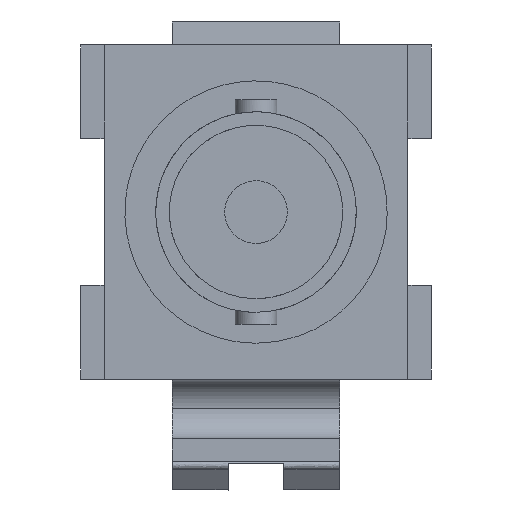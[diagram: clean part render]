
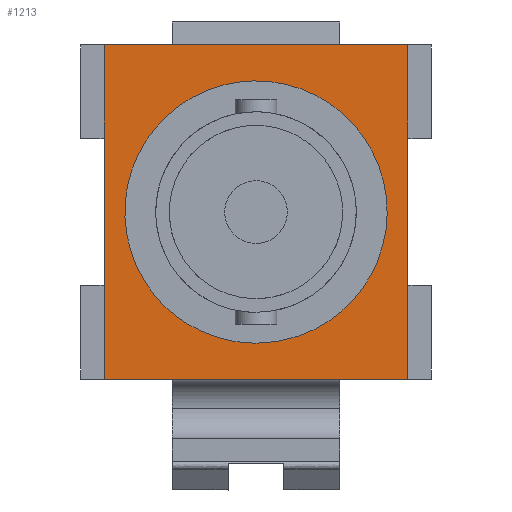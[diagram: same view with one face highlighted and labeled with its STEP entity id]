
A CAD part, left-side view. The second image highlights one B-rep face of the part: STEP entity #1213.
In plain terms, the highlighted free-form (B-spline) face has degree [1, 1] with [2, 2] control points.
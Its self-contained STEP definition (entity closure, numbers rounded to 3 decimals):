
#633=CARTESIAN_POINT('',(-18.35,-7.275,0.));
#634=VERTEX_POINT('',#633);
#644=CARTESIAN_POINT('',(-18.35,7.275,0.));
#645=VERTEX_POINT('',#644);
#646=CARTESIAN_POINT('',(-18.35,7.275,0.));
#647=CARTESIAN_POINT('',(-18.35,4.365,0.));
#648=CARTESIAN_POINT('',(-18.35,1.455,0.));
#649=CARTESIAN_POINT('',(-18.35,-1.455,0.));
#650=CARTESIAN_POINT('',(-18.35,-4.365,0.));
#651=CARTESIAN_POINT('',(-18.35,-7.275,0.));
#652=B_SPLINE_CURVE_WITH_KNOTS('',5,(#646,#647,#648,#649,#650,#651),.UNSPECIFIED.,.F.,.U.,(6,6),(0.,14.55),.UNSPECIFIED.);
#653=EDGE_CURVE('',#645,#634,#652,.T.);
#762=CARTESIAN_POINT('',(-18.35,7.275,16.));
#763=VERTEX_POINT('',#762);
#773=CARTESIAN_POINT('',(-18.35,-7.275,16.));
#774=VERTEX_POINT('',#773);
#775=CARTESIAN_POINT('',(-18.35,7.275,16.));
#776=CARTESIAN_POINT('',(-18.35,4.365,16.));
#777=CARTESIAN_POINT('',(-18.35,1.455,16.));
#778=CARTESIAN_POINT('',(-18.35,-1.455,16.));
#779=CARTESIAN_POINT('',(-18.35,-4.365,16.));
#780=CARTESIAN_POINT('',(-18.35,-7.275,16.));
#781=B_SPLINE_CURVE_WITH_KNOTS('',5,(#775,#776,#777,#778,#779,#780),.UNSPECIFIED.,.F.,.U.,(6,6),(0.,14.55),.UNSPECIFIED.);
#782=EDGE_CURVE('',#763,#774,#781,.T.);
#1128=CARTESIAN_POINT('',(-18.35,7.275,16.));
#1129=CARTESIAN_POINT('',(-18.35,-7.275,16.));
#1130=CARTESIAN_POINT('',(-18.35,7.275,0.));
#1131=CARTESIAN_POINT('',(-18.35,-7.275,0.));
#1132=B_SPLINE_SURFACE_WITH_KNOTS('',1,1,((#1128,#1129),(#1130,#1131)),.PLANE_SURF.,.F.,.F.,.U.,(2,2),(2,2),(0.,1.1),(0.,1.),.UNSPECIFIED.);
#1133=CARTESIAN_POINT('',(-18.35,-7.275,0.));
#1134=CARTESIAN_POINT('',(-18.35,-7.275,3.2));
#1135=CARTESIAN_POINT('',(-18.35,-7.275,6.4));
#1136=CARTESIAN_POINT('',(-18.35,-7.275,9.6));
#1137=CARTESIAN_POINT('',(-18.35,-7.275,12.8));
#1138=CARTESIAN_POINT('',(-18.35,-7.275,16.));
#1139=B_SPLINE_CURVE_WITH_KNOTS('',5,(#1133,#1134,#1135,#1136,#1137,#1138),.UNSPECIFIED.,.F.,.U.,(6,6),(0.,16.),.UNSPECIFIED.);
#1140=EDGE_CURVE('',#634,#774,#1139,.T.);
#1141=ORIENTED_EDGE('',*,*,#1140,.T.);
#1142=ORIENTED_EDGE('',*,*,#782,.F.);
#1143=CARTESIAN_POINT('',(-18.35,7.275,16.));
#1144=CARTESIAN_POINT('',(-18.35,7.275,12.8));
#1145=CARTESIAN_POINT('',(-18.35,7.275,9.6));
#1146=CARTESIAN_POINT('',(-18.35,7.275,6.4));
#1147=CARTESIAN_POINT('',(-18.35,7.275,3.2));
#1148=CARTESIAN_POINT('',(-18.35,7.275,0.));
#1149=B_SPLINE_CURVE_WITH_KNOTS('',5,(#1143,#1144,#1145,#1146,#1147,#1148),.UNSPECIFIED.,.F.,.U.,(6,6),(0.,16.),.UNSPECIFIED.);
#1150=EDGE_CURVE('',#763,#645,#1149,.T.);
#1151=ORIENTED_EDGE('',*,*,#1150,.T.);
#1152=ORIENTED_EDGE('',*,*,#653,.T.);
#1153=EDGE_LOOP('',(#1141,#1142,#1151,#1152));
#1154=FACE_OUTER_BOUND('',#1153,.T.);
#1155=CARTESIAN_POINT('',(-18.35,0.,1.72));
#1156=VERTEX_POINT('',#1155);
#1157=CARTESIAN_POINT('',(-18.35,0.,1.72));
#1158=CARTESIAN_POINT('',(-18.35,-0.493,1.72));
#1159=CARTESIAN_POINT('',(-18.35,-0.986,1.768));
#1160=CARTESIAN_POINT('',(-18.35,-1.473,1.865));
#1161=CARTESIAN_POINT('',(-18.35,-2.422,2.153));
#1162=CARTESIAN_POINT('',(-18.35,-3.296,2.62));
#1163=CARTESIAN_POINT('',(-18.35,-3.709,2.896));
#1164=CARTESIAN_POINT('',(-18.35,-4.475,3.525));
#1165=CARTESIAN_POINT('',(-18.35,-5.104,4.291));
#1166=CARTESIAN_POINT('',(-18.35,-5.38,4.704));
#1167=CARTESIAN_POINT('',(-18.35,-5.847,5.578));
#1168=CARTESIAN_POINT('',(-18.35,-6.135,6.527));
#1169=CARTESIAN_POINT('',(-18.35,-6.232,7.014));
#1170=CARTESIAN_POINT('',(-18.35,-6.328,8.));
#1171=CARTESIAN_POINT('',(-18.35,-6.232,8.986));
#1172=CARTESIAN_POINT('',(-18.35,-6.135,9.473));
#1173=CARTESIAN_POINT('',(-18.35,-5.847,10.422));
#1174=CARTESIAN_POINT('',(-18.35,-5.38,11.296));
#1175=CARTESIAN_POINT('',(-18.35,-5.104,11.709));
#1176=CARTESIAN_POINT('',(-18.35,-4.475,12.475));
#1177=CARTESIAN_POINT('',(-18.35,-3.709,13.104));
#1178=CARTESIAN_POINT('',(-18.35,-3.296,13.38));
#1179=CARTESIAN_POINT('',(-18.35,-2.422,13.847));
#1180=CARTESIAN_POINT('',(-18.35,-1.473,14.135));
#1181=CARTESIAN_POINT('',(-18.35,-0.986,14.232));
#1182=CARTESIAN_POINT('',(-18.35,0.,14.328));
#1183=CARTESIAN_POINT('',(-18.35,0.986,14.232));
#1184=CARTESIAN_POINT('',(-18.35,1.473,14.135));
#1185=CARTESIAN_POINT('',(-18.35,2.422,13.847));
#1186=CARTESIAN_POINT('',(-18.35,3.296,13.38));
#1187=CARTESIAN_POINT('',(-18.35,3.709,13.104));
#1188=CARTESIAN_POINT('',(-18.35,4.475,12.475));
#1189=CARTESIAN_POINT('',(-18.35,5.104,11.709));
#1190=CARTESIAN_POINT('',(-18.35,5.38,11.296));
#1191=CARTESIAN_POINT('',(-18.35,5.847,10.422));
#1192=CARTESIAN_POINT('',(-18.35,6.135,9.473));
#1193=CARTESIAN_POINT('',(-18.35,6.232,8.986));
#1194=CARTESIAN_POINT('',(-18.35,6.328,8.));
#1195=CARTESIAN_POINT('',(-18.35,6.232,7.014));
#1196=CARTESIAN_POINT('',(-18.35,6.135,6.527));
#1197=CARTESIAN_POINT('',(-18.35,5.847,5.578));
#1198=CARTESIAN_POINT('',(-18.35,5.38,4.704));
#1199=CARTESIAN_POINT('',(-18.35,5.104,4.291));
#1200=CARTESIAN_POINT('',(-18.35,4.475,3.525));
#1201=CARTESIAN_POINT('',(-18.35,3.709,2.896));
#1202=CARTESIAN_POINT('',(-18.35,3.296,2.62));
#1203=CARTESIAN_POINT('',(-18.35,2.422,2.153));
#1204=CARTESIAN_POINT('',(-18.35,1.473,1.865));
#1205=CARTESIAN_POINT('',(-18.35,0.986,1.768));
#1206=CARTESIAN_POINT('',(-18.35,0.493,1.72));
#1207=CARTESIAN_POINT('',(-18.35,0.,1.72));
#1208=B_SPLINE_CURVE_WITH_KNOTS('',5,(#1157,#1158,#1159,#1160,#1161,#1162,#1163,#1164,#1165,#1166,#1167,#1168,#1169,#1170,#1171,#1172,#1173,#1174,#1175,#1176,#1177,#1178,#1179,#1180,#1181,#1182,#1183,#1184,#1185,#1186,#1187,#1188,#1189,#1190,#1191,#1192,#1193,#1194,#1195,#1196,#1197,#1198,#1199,#1200,#1201,#1202,#1203,#1204,#1205,#1206,#1207),.UNSPECIFIED.,.T.,.U.,(6,3,3,3,3,3,3,3,3,3,3,3,3,3,3,3,6),(0.,0.393,0.785,1.178,1.571,1.963,2.356,2.749,3.142,3.534,3.927,4.32,4.712,5.105,5.498,5.89,6.283),.UNSPECIFIED.);
#1209=EDGE_CURVE('',#1156,#1156,#1208,.T.);
#1210=ORIENTED_EDGE('',*,*,#1209,.F.);
#1211=EDGE_LOOP('',(#1210));
#1212=FACE_BOUND('',#1211,.T.);
#1213=ADVANCED_FACE('',(#1154,#1212),#1132,.T.);
